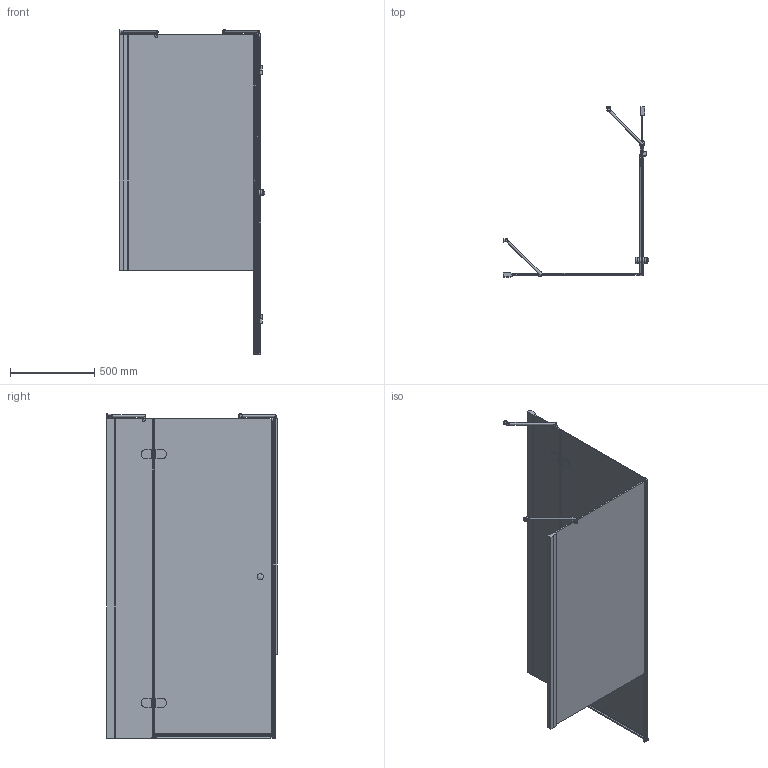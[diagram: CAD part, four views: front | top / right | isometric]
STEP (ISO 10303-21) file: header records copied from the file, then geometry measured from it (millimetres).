
FILE_DESCRIPTION(/* description */ (''),/* implementation_level */ '2;1');
FILE_NAME(/* name */ 'E:\Работа\Сергей\Душевые кабинки\! Работа\LUX SQUARE GK-003VPP999\LUX SQUARE GK-003VPP999 правая модель\LUX SQUARE GK-003VPP999 ПРАВАЯ-3D.stp',/* time_stamp */ '2017-05-28T19:02:36+03:00',/* author */ ('User'),/* organization */ (''),/* preprocessor_version */ 'ST-DEVELOPER v15.2',/* originating_system */ 'Autodesk Inventor 2014',/* authorisation */ '');
FILE_SCHEMA (('CONFIG_CONTROL_DESIGN'));
Length unit declared in the file: millimetre
Products named in the file (1): LUX SQUARE GK-003VPP999 ПРАВАЯ-
3D
Bounding box: 864.14 x 1013.94 x 1931.5 mm (x, y, z)
Volume: 24968041 mm3; surface area: 6593479.3 mm2
Topology: 5 solids, 5 shells, 613 faces, 1541 edges, 951 vertices
Faces by surface type: plane 444, cylinder 137, torus 15, sphere 8, bspline 6, cone 3
Full cylindrical faces by diameter (mm): 3.5 x3, 12 x2, 15 x2, 20 x4, 26 x2, 38 x4
Entity records: 18919 total; most frequent: CARTESIAN_POINT 3832, ORIENTED_EDGE 2976, DIRECTION 2953, EDGE_CURVE 1488, LINE 1105, VECTOR 1105, VERTEX_POINT 928, AXIS2_PLACEMENT_3D 924
